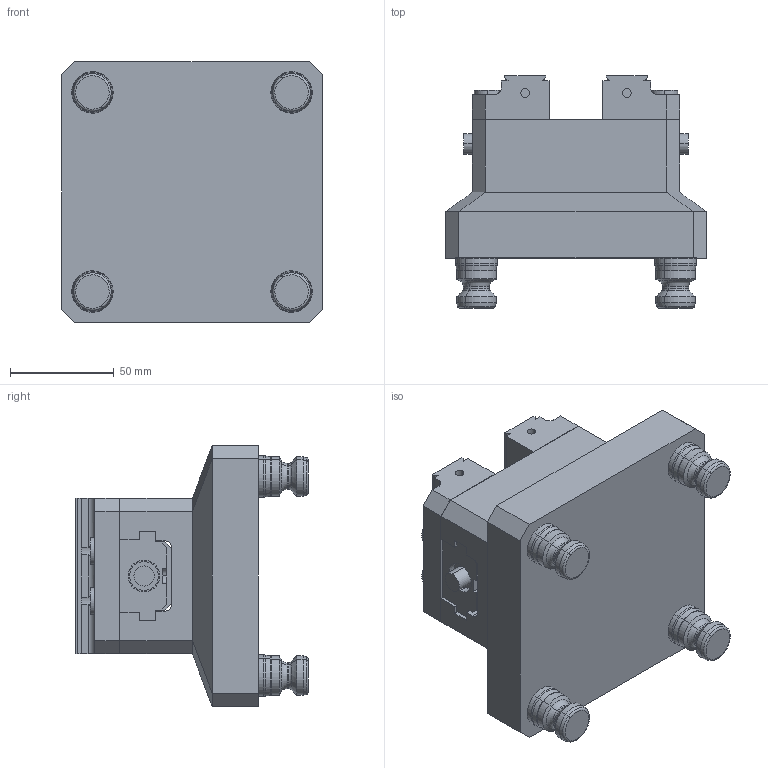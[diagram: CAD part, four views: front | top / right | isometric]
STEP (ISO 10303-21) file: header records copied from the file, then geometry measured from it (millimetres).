
FILE_DESCRIPTION (( 'STEP AP214' ), '1' );
FILE_NAME ('D_R96-V75100X.STEP', '2020-03-13T22:18:04', ( '' ), ( '' ), 'SwSTEP 2.0', 'SolidWorks 2018', '' );
FILE_SCHEMA (( 'AUTOMOTIVE_DESIGN' ));
Length unit declared in the file: millimetre
Products named in the file (7): D_PS20F_HARD TURN; D_R96-V75100-1; D_V75100X-1; D_V75100X; D_V75100X-5; D_V75100X-2; D_R96-V75100X
Assembly tree (11 placements, depth 3):
  D_R96-V75100X
    D_R96-V75100-1
    D_PS20F_HARD TURN  x4
    D_V75100X
      D_V75100X-2  x2
      D_V75100X-5  x2
      D_V75100X-1
Bounding box: 125.73 x 111.88 x 125.73 mm (x, y, z)
Volume: 774967.5 mm3; surface area: 144722.4 mm2
Topology: 10 solids, 10 shells, 541 faces, 1218 edges, 758 vertices
Faces by surface type: plane 215, cylinder 206, torus 64, cone 56
Entity records: 9627 total; most frequent: DIRECTION 1609, CARTESIAN_POINT 1531, ORIENTED_EDGE 1386, EDGE_CURVE 693, AXIS2_PLACEMENT_3D 602, VERTEX_POINT 448, LINE 405, VECTOR 405
